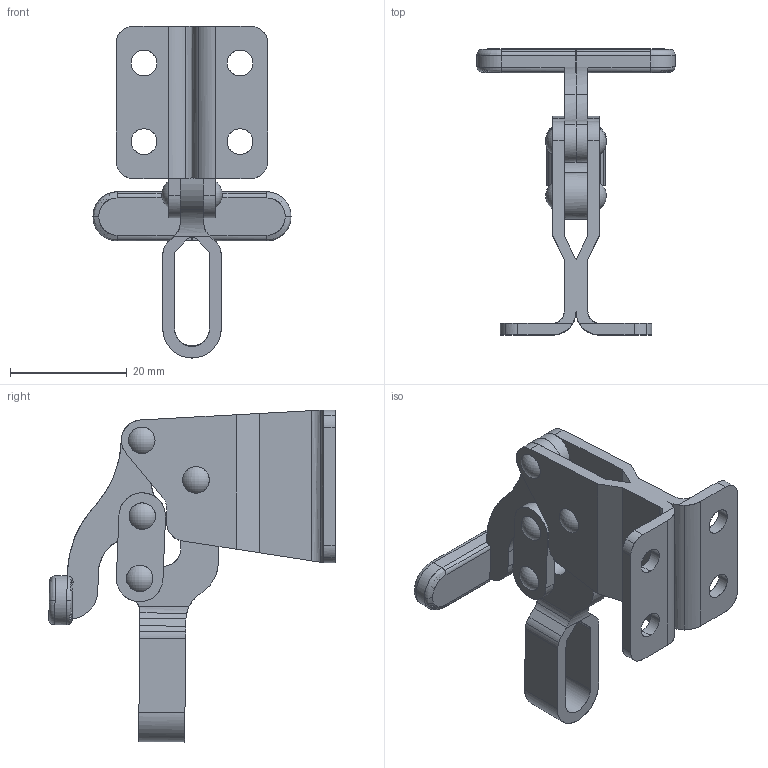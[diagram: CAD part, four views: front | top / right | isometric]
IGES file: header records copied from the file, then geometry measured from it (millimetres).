
Start section: Comment
Global section: file name: 13005hb.igs; native system:  By Spatial Corp.; preprocessor: XPlus PS/IGES 3.0; author: Author; organization: Title; date: 20050216.173127; units: inch
Bounding box: 34 x 49.16 x 56.98 mm (x, y, z)
Surface area: 10306.4 mm2 (no closed solid volume)
Topology: 0 solids, 0 shells, 265 faces, 1380 edges, 1380 vertices
Faces by surface type: revolution 167, extrusion 98
